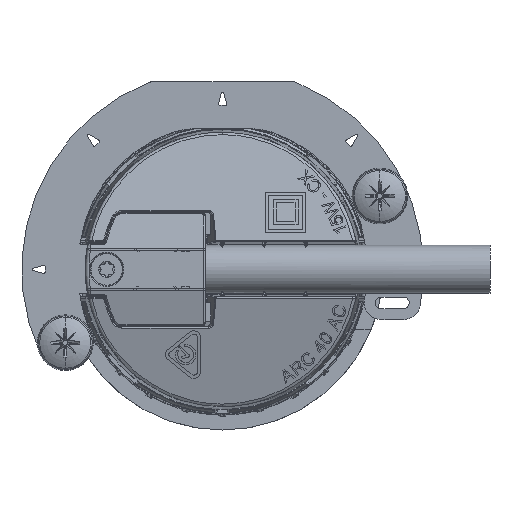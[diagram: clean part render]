
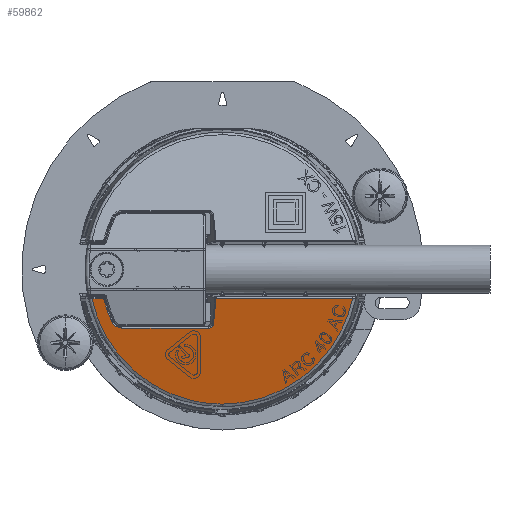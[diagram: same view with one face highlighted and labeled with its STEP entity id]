
A CAD part, front view. The second image highlights one B-rep face of the part: STEP entity #59862.
In plain terms, the highlighted planar face has unit normal (0, -0.966, -0.259).
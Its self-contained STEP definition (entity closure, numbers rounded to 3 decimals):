
#952 =( BOUNDED_CURVE ( )  B_SPLINE_CURVE ( 3, ( #29217, #14414, #24508, #39951 ),
 .UNSPECIFIED., .F., .F. ) 
 B_SPLINE_CURVE_WITH_KNOTS ( ( 4, 4 ),
 ( 0., 1.365 ),
 .UNSPECIFIED. ) 
 CURVE ( )  GEOMETRIC_REPRESENTATION_ITEM ( )  RATIONAL_B_SPLINE_CURVE ( ( 1., 0.851, 0.851, 1. ) ) 
 REPRESENTATION_ITEM ( '' )  );
#1467 = CARTESIAN_POINT ( 'NONE',  ( -1.298, -25.327, -8.125 ) ) ;
#2224 = B_SPLINE_CURVE_WITH_KNOTS ( 'NONE', 3,
 ( #59008, #54891, #44800, #10420, #30901, #15784, #58384, #25558, #5981, #39145 ),
 .UNSPECIFIED., .F., .F.,
 ( 4, 2, 2, 2, 4 ),
 ( 0., 0., 0.001, 0.001, 0.002 ),
 .UNSPECIFIED. ) ;
#2493 = CARTESIAN_POINT ( 'NONE',  ( -9.811, -22.111, -20.127 ) ) ;
#2506 = AXIS2_PLACEMENT_3D ( 'NONE', #62280, #57251, #56000 ) ;
#2785 = ORIENTED_EDGE ( 'NONE', *, *, #53644, .T. ) ;
#3266 = VECTOR ( 'NONE', #45723, 1000. ) ;
#3745 = LINE ( 'NONE', #60857, #3266 ) ;
#4236 = PLANE ( 'NONE',  #2506 ) ;
#5689 = ORIENTED_EDGE ( 'NONE', *, *, #37397, .T. ) ;
#5981 = CARTESIAN_POINT ( 'NONE',  ( -16.439, -25.371, -7.96 ) ) ;
#6170 = CARTESIAN_POINT ( 'NONE',  ( -2.048, -25.154, -8.769 ) ) ;
#6632 = VERTEX_POINT ( 'NONE', #46326 ) ;
#7075 = ORIENTED_EDGE ( 'NONE', *, *, #20638, .T. ) ;
#7259 = CARTESIAN_POINT ( 'NONE',  ( -25., -26.354, -4.291 ) ) ;
#7650 = CARTESIAN_POINT ( 'NONE',  ( -15.006, -25.154, -8.769 ) ) ;
#7841 = CARTESIAN_POINT ( 'NONE',  ( -17.435, -23.766, -13.951 ) ) ;
#8890 = ORIENTED_EDGE ( 'NONE', *, *, #51098, .T. ) ;
#9435 = CARTESIAN_POINT ( 'NONE',  ( -0.924, -26.354, -4.291 ) ) ;
#9826 = VERTEX_POINT ( 'NONE', #53616 ) ;
#10243 = LINE ( 'NONE', #48727, #43592 ) ;
#10420 = CARTESIAN_POINT ( 'NONE',  ( -15.623, -25.184, -8.658 ) ) ;
#10717 = EDGE_CURVE ( 'NONE', #22000, #6632, #10243, .T. ) ;
#12266 = CARTESIAN_POINT ( 'NONE',  ( -17.029, -25.707, -6.707 ) ) ;
#14414 = CARTESIAN_POINT ( 'NONE',  ( 9.838, -22.111, -20.127 ) ) ;
#14600 = ORIENTED_EDGE ( 'NONE', *, *, #20999, .T. ) ;
#15190 = VERTEX_POINT ( 'NONE', #31288 ) ;
#15612 = DIRECTION ( 'NONE',  ( -1., 0., 0. ) ) ;
#15784 = CARTESIAN_POINT ( 'NONE',  ( -16.03, -25.246, -8.425 ) ) ;
#19879 = CARTESIAN_POINT ( 'NONE',  ( -16.504, -25.408, -7.82 ) ) ;
#20399 = CARTESIAN_POINT ( 'NONE',  ( -1.645, -25.154, -8.769 ) ) ;
#20638 = EDGE_CURVE ( 'NONE', #38855, #22000, #22885, .T. ) ;
#20999 = EDGE_CURVE ( 'NONE', #36988, #61013, #59235, .T. ) ;
#21751 = CARTESIAN_POINT ( 'NONE',  ( 0., -22.111, -20.127 ) ) ;
#21756 = CARTESIAN_POINT ( 'NONE',  ( -17.44, -26.018, -5.544 ) ) ;
#21929 = CARTESIAN_POINT ( 'NONE',  ( 19.484, -26.354, -4.291 ) ) ;
#22000 = VERTEX_POINT ( 'NONE', #42076 ) ;
#22885 = B_SPLINE_CURVE_WITH_KNOTS ( 'NONE', 3,
 ( #45711, #12266, #21756, #31833 ),
 .UNSPECIFIED., .F., .F.,
 ( 4, 4 ),
 ( 0., 0.004 ),
 .UNSPECIFIED. ) ;
#24508 = CARTESIAN_POINT ( 'NONE',  ( 17.473, -23.774, -13.922 ) ) ;
#24657 = ORIENTED_EDGE ( 'NONE', *, *, #27694, .T. ) ;
#24890 = VERTEX_POINT ( 'NONE', #21929 ) ;
#25114 = EDGE_CURVE ( 'NONE', #15190, #37654, #3745, .T. ) ;
#25558 = CARTESIAN_POINT ( 'NONE',  ( -16.353, -25.336, -8.091 ) ) ;
#26154 = EDGE_LOOP ( 'NONE', ( #7075, #49246, #2785, #5689, #52738, #14600, #24657, #60132, #8890 ) ) ;
#26778 = VECTOR ( 'NONE', #41227, 1000. ) ;
#27694 = EDGE_CURVE ( 'NONE', #61013, #15190, #45403, .T. ) ;
#28476 = EDGE_CURVE ( 'NONE', #24890, #36988, #41038, .T. ) ;
#29217 = CARTESIAN_POINT ( 'NONE',  ( 0., -22.111, -20.127 ) ) ;
#30901 = CARTESIAN_POINT ( 'NONE',  ( -15.767, -25.202, -8.592 ) ) ;
#31288 = CARTESIAN_POINT ( 'NONE',  ( -2.048, -25.154, -8.769 ) ) ;
#31833 = CARTESIAN_POINT ( 'NONE',  ( -17.73, -26.337, -4.353 ) ) ;
#35550 = CARTESIAN_POINT ( 'NONE',  ( -1.295, -25.334, -8.098 ) ) ;
#35943 = CARTESIAN_POINT ( 'NONE',  ( -19.471, -26.337, -4.353 ) ) ;
#36852 = VECTOR ( 'NONE', #54308, 1000. ) ;
#36988 = VERTEX_POINT ( 'NONE', #9435 ) ;
#37070 = FACE_OUTER_BOUND ( 'NONE', #26154, .T. ) ;
#37397 = EDGE_CURVE ( 'NONE', #9826, #24890, #952, .T. ) ;
#37654 = VERTEX_POINT ( 'NONE', #7650 ) ;
#38855 = VERTEX_POINT ( 'NONE', #19879 ) ;
#39145 = CARTESIAN_POINT ( 'NONE',  ( -16.504, -25.408, -7.82 ) ) ;
#39951 = CARTESIAN_POINT ( 'NONE',  ( 19.484, -26.354, -4.291 ) ) ;
#41038 = LINE ( 'NONE', #7259, #36852 ) ;
#41227 = DIRECTION ( 'NONE',  ( -0.094, 0.258, -0.962 ) ) ;
#42076 = CARTESIAN_POINT ( 'NONE',  ( -17.73, -26.337, -4.353 ) ) ;
#43592 = VECTOR ( 'NONE', #15612, 1000. ) ;
#44800 = CARTESIAN_POINT ( 'NONE',  ( -15.321, -25.16, -8.746 ) ) ;
#45403 =( BOUNDED_CURVE ( )  B_SPLINE_CURVE ( 3, ( #1467, #54460, #20399, #6170 ),
 .UNSPECIFIED., .F., .F. ) 
 B_SPLINE_CURVE_WITH_KNOTS ( ( 4, 4 ),
 ( 0.636, 2.201 ),
 .UNSPECIFIED. ) 
 CURVE ( )  GEOMETRIC_REPRESENTATION_ITEM ( )  RATIONAL_B_SPLINE_CURVE ( ( 1., 0.806, 0.806, 1. ) ) 
 REPRESENTATION_ITEM ( '' )  );
#45711 = CARTESIAN_POINT ( 'NONE',  ( -16.504, -25.408, -7.82 ) ) ;
#45723 = DIRECTION ( 'NONE',  ( -1., 0., 0. ) ) ;
#46326 = CARTESIAN_POINT ( 'NONE',  ( -19.471, -26.337, -4.353 ) ) ;
#48633 = CARTESIAN_POINT ( 'NONE',  ( -1.298, -25.327, -8.125 ) ) ;
#48727 = CARTESIAN_POINT ( 'NONE',  ( -25., -26.337, -4.353 ) ) ;
#49246 = ORIENTED_EDGE ( 'NONE', *, *, #10717, .T. ) ;
#51098 = EDGE_CURVE ( 'NONE', #37654, #38855, #2224, .T. ) ;
#52738 = ORIENTED_EDGE ( 'NONE', *, *, #28476, .T. ) ;
#53616 = CARTESIAN_POINT ( 'NONE',  ( 0., -22.111, -20.127 ) ) ;
#53644 = EDGE_CURVE ( 'NONE', #6632, #9826, #55121, .T. ) ;
#54308 = DIRECTION ( 'NONE',  ( -1., 0., 0. ) ) ;
#54460 = CARTESIAN_POINT ( 'NONE',  ( -1.335, -25.226, -8.503 ) ) ;
#54891 = CARTESIAN_POINT ( 'NONE',  ( -15.165, -25.154, -8.769 ) ) ;
#55121 =( BOUNDED_CURVE ( )  B_SPLINE_CURVE ( 3, ( #35943, #7841, #2493, #21751 ),
 .UNSPECIFIED., .F., .F. ) 
 B_SPLINE_CURVE_WITH_KNOTS ( ( 4, 4 ),
 ( 4.921, 6.283 ),
 .UNSPECIFIED. ) 
 CURVE ( )  GEOMETRIC_REPRESENTATION_ITEM ( )  RATIONAL_B_SPLINE_CURVE ( ( 1., 0.851, 0.851, 1. ) ) 
 REPRESENTATION_ITEM ( '' )  );
#56000 = DIRECTION ( 'NONE',  ( 0., -0.259, 0.966 ) ) ;
#57251 = DIRECTION ( 'NONE',  ( 0., 0.966, 0.259 ) ) ;
#58384 = CARTESIAN_POINT ( 'NONE',  ( -16.149, -25.274, -8.322 ) ) ;
#59008 = CARTESIAN_POINT ( 'NONE',  ( -15.006, -25.154, -8.769 ) ) ;
#59235 = LINE ( 'NONE', #35550, #26778 ) ;
#59862 = ADVANCED_FACE ( 'NONE', ( #37070 ), #4236, .F. ) ;
#60132 = ORIENTED_EDGE ( 'NONE', *, *, #25114, .T. ) ;
#60857 = CARTESIAN_POINT ( 'NONE',  ( -25., -25.154, -8.769 ) ) ;
#61013 = VERTEX_POINT ( 'NONE', #48633 ) ;
#62280 = CARTESIAN_POINT ( 'NONE',  ( -25., -21.475, -22.5 ) ) ;
